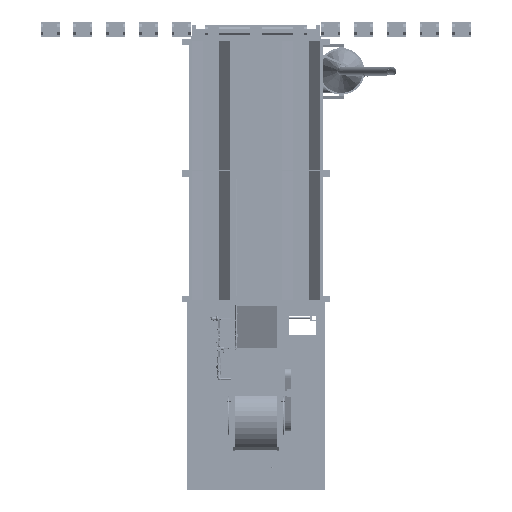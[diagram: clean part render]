
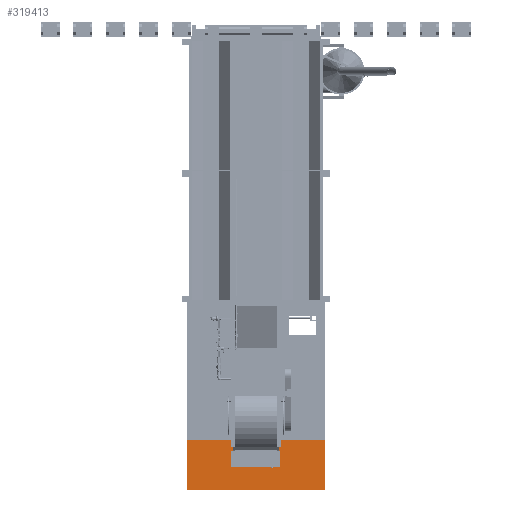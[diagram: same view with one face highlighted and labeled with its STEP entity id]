
A CAD part, front view. The second image highlights one B-rep face of the part: STEP entity #319413.
In plain terms, the highlighted planar face has unit normal (0, -1, 0) as drawn and (1, 0, 0) by its records, which use the part's own axes.
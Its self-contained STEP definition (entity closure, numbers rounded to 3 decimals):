
#60579=FACE_OUTER_BOUND('',#79621,.T.);
#79621=EDGE_LOOP('',(#282740,#282741,#282742,#282743));
#101786=LINE('',#754532,#127041);
#101822=LINE('',#754600,#127077);
#101834=LINE('',#754623,#127089);
#101835=LINE('',#754624,#127090);
#127041=VECTOR('',#418829,0.394);
#127077=VECTOR('',#418883,0.394);
#127089=VECTOR('',#418907,0.394);
#127090=VECTOR('',#418908,0.394);
#157145=VERTEX_POINT('',#754529);
#157146=VERTEX_POINT('',#754531);
#157169=VERTEX_POINT('',#754598);
#157174=VERTEX_POINT('',#754622);
#199783=EDGE_CURVE('',#157145,#157146,#101786,.T.);
#199819=EDGE_CURVE('',#157145,#157169,#101822,.T.);
#199831=EDGE_CURVE('',#157169,#157174,#101834,.T.);
#199832=EDGE_CURVE('',#157174,#157146,#101835,.T.);
#282740=ORIENTED_EDGE('',*,*,#199819,.T.);
#282741=ORIENTED_EDGE('',*,*,#199831,.T.);
#282742=ORIENTED_EDGE('',*,*,#199832,.T.);
#282743=ORIENTED_EDGE('',*,*,#199783,.F.);
#302555=PLANE('',#347709);
#319413=ADVANCED_FACE('',(#60579),#302555,.T.);
#347709=AXIS2_PLACEMENT_3D('',#754621,#418905,#418906);
#418829=DIRECTION('',(0.,0.,1.));
#418883=DIRECTION('',(0.,1.,0.));
#418905=DIRECTION('center_axis',(1.,0.,0.));
#418906=DIRECTION('ref_axis',(0.,0.,-1.));
#418907=DIRECTION('',(0.,0.,1.));
#418908=DIRECTION('',(0.,-1.,0.));
#754529=CARTESIAN_POINT('',(-0.125,-30.,101.063));
#754531=CARTESIAN_POINT('',(-0.125,-30.,137.75));
#754532=CARTESIAN_POINT('',(-0.125,-30.,0.));
#754598=CARTESIAN_POINT('',(-0.125,70.5,101.063));
#754600=CARTESIAN_POINT('',(-0.125,20.25,101.063));
#754621=CARTESIAN_POINT('Origin',(-0.125,70.5,0.));
#754622=CARTESIAN_POINT('',(-0.125,70.5,137.75));
#754623=CARTESIAN_POINT('',(-0.125,70.5,0.));
#754624=CARTESIAN_POINT('',(-0.125,-30.,137.75));
